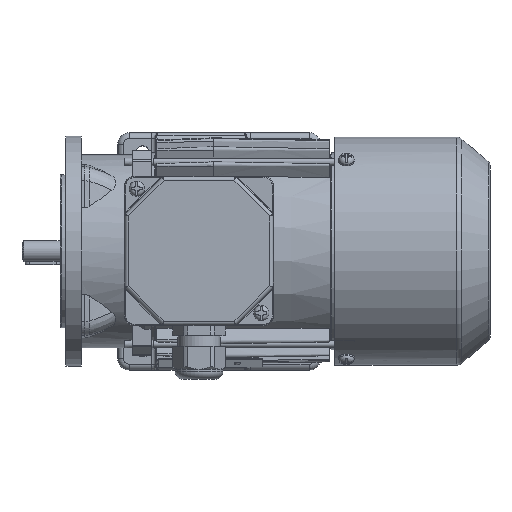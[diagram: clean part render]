
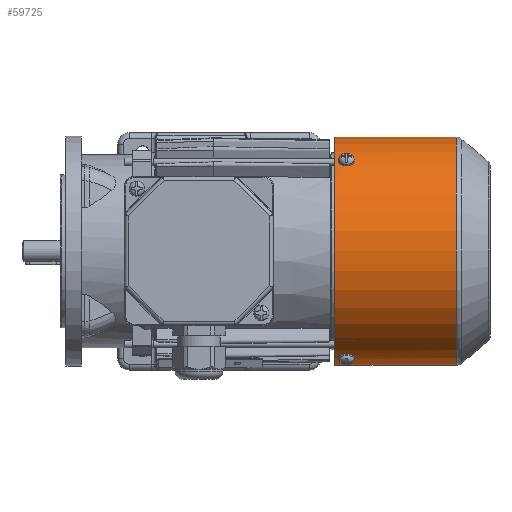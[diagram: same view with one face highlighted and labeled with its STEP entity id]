
A CAD part, top view. The second image highlights one B-rep face of the part: STEP entity #59725.
In plain terms, the highlighted cylindrical face has radius 59.6 mm (diameter 119.2 mm), a full revolution.
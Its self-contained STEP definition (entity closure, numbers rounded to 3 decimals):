
#1383=CYLINDRICAL_SURFACE('',#63434,59.6);
#1983=B_SPLINE_CURVE_WITH_KNOTS('',3,(#90381,#90382,#90383,#90384,#90385,
#90386,#90387),.UNSPECIFIED.,.F.,.F.,(4,1,1,1,4),(0.,
0.002,0.004,0.006,0.007),
 .UNSPECIFIED.);
#1984=B_SPLINE_CURVE_WITH_KNOTS('',3,(#90389,#90390,#90391,#90392,#90393,
#90394,#90395),.UNSPECIFIED.,.F.,.F.,(4,1,1,1,4),(0.,
0.002,0.004,0.006,0.007),
 .UNSPECIFIED.);
#1985=B_SPLINE_CURVE_WITH_KNOTS('',3,(#90401,#90402,#90403,#90404,#90405,
#90406,#90407),.UNSPECIFIED.,.F.,.F.,(4,1,1,1,4),(0.,0.002,
0.004,0.006,0.008),
 .UNSPECIFIED.);
#1986=B_SPLINE_CURVE_WITH_KNOTS('',3,(#90415,#90416,#90417,#90418,#90419,
#90420,#90421),.UNSPECIFIED.,.F.,.F.,(4,1,1,1,4),(0.,
0.002,0.004,0.006,0.008),
 .UNSPECIFIED.);
#1987=B_SPLINE_CURVE_WITH_KNOTS('',3,(#90432,#90433,#90434,#90435,#90436,
#90437,#90438),.UNSPECIFIED.,.F.,.F.,(4,1,1,1,4),(0.,0.002,
0.004,0.006,0.008),
 .UNSPECIFIED.);
#1988=B_SPLINE_CURVE_WITH_KNOTS('',3,(#90446,#90447,#90448,#90449,#90450,
#90451,#90452),.UNSPECIFIED.,.F.,.F.,(4,1,1,1,4),(0.,0.002,
0.004,0.006,0.008),
 .UNSPECIFIED.);
#3766=CIRCLE('',#63316,59.6);
#3767=CIRCLE('',#63319,59.6);
#3768=CIRCLE('',#63321,59.6);
#3769=CIRCLE('',#63324,59.6);
#3770=CIRCLE('',#63327,59.6);
#3819=CIRCLE('',#63435,59.6);
#13781=ORIENTED_EDGE('',*,*,#21832,.T.);
#13782=ORIENTED_EDGE('',*,*,#21830,.T.);
#13783=ORIENTED_EDGE('',*,*,#21828,.T.);
#13784=ORIENTED_EDGE('',*,*,#21833,.T.);
#13785=ORIENTED_EDGE('',*,*,#21815,.F.);
#13786=ORIENTED_EDGE('',*,*,#21816,.F.);
#13787=ORIENTED_EDGE('',*,*,#21823,.T.);
#13788=ORIENTED_EDGE('',*,*,#21821,.T.);
#13789=ORIENTED_EDGE('',*,*,#21819,.T.);
#13790=ORIENTED_EDGE('',*,*,#21824,.T.);
#13791=ORIENTED_EDGE('',*,*,#21969,.F.);
#13792=ORIENTED_EDGE('',*,*,#21825,.T.);
#21815=EDGE_CURVE('',#26610,#26609,#1983,.T.);
#21816=EDGE_CURVE('',#26609,#26610,#1984,.T.);
#21819=EDGE_CURVE('',#26650,#26651,#1985,.T.);
#21821=EDGE_CURVE('',#26652,#26650,#3766,.F.);
#21823=EDGE_CURVE('',#26653,#26652,#1986,.T.);
#21824=EDGE_CURVE('',#26651,#26653,#3767,.F.);
#21825=EDGE_CURVE('',#26654,#26654,#3768,.F.);
#21828=EDGE_CURVE('',#26655,#26656,#1987,.T.);
#21830=EDGE_CURVE('',#26657,#26655,#3769,.F.);
#21832=EDGE_CURVE('',#26658,#26657,#1988,.T.);
#21833=EDGE_CURVE('',#26656,#26658,#3770,.F.);
#21969=EDGE_CURVE('',#26769,#26769,#3819,.T.);
#26609=VERTEX_POINT('',#90236);
#26610=VERTEX_POINT('',#90237);
#26650=VERTEX_POINT('',#90398);
#26651=VERTEX_POINT('',#90400);
#26652=VERTEX_POINT('',#90410);
#26653=VERTEX_POINT('',#90414);
#26654=VERTEX_POINT('',#90426);
#26655=VERTEX_POINT('',#90429);
#26656=VERTEX_POINT('',#90431);
#26657=VERTEX_POINT('',#90441);
#26658=VERTEX_POINT('',#90445);
#26769=VERTEX_POINT('',#90836);
#36496=EDGE_LOOP('',(#13781,#13782,#13783,#13784));
#36497=EDGE_LOOP('',(#13785,#13786));
#36498=EDGE_LOOP('',(#13787,#13788,#13789,#13790));
#36499=EDGE_LOOP('',(#13791));
#36500=EDGE_LOOP('',(#13792));
#39293=FACE_BOUND('',#36496,.T.);
#39294=FACE_BOUND('',#36497,.T.);
#39295=FACE_BOUND('',#36498,.T.);
#39296=FACE_BOUND('',#36499,.T.);
#39297=FACE_BOUND('',#36500,.T.);
#59725=ADVANCED_FACE('',(#39293,#39294,#39295,#39296,#39297),#1383,.T.);
#63316=AXIS2_PLACEMENT_3D('',#90411,#73313,#73314);
#63319=AXIS2_PLACEMENT_3D('',#90423,#73320,#73321);
#63321=AXIS2_PLACEMENT_3D('',#90425,#73324,#73325);
#63324=AXIS2_PLACEMENT_3D('',#90442,#73333,#73334);
#63327=AXIS2_PLACEMENT_3D('',#90454,#73340,#73341);
#63434=AXIS2_PLACEMENT_3D('',#90834,#73617,#73618);
#63435=AXIS2_PLACEMENT_3D('',#90835,#73619,#73620);
#73313=DIRECTION('',(-1.,0.,0.));
#73314=DIRECTION('',(0.,0.866,-0.5));
#73320=DIRECTION('',(1.,0.,0.));
#73321=DIRECTION('',(0.,-0.866,0.5));
#73324=DIRECTION('',(1.,0.,0.));
#73325=DIRECTION('',(0.,0.,-1.));
#73333=DIRECTION('',(-1.,0.,0.));
#73334=DIRECTION('',(0.,0.,1.));
#73340=DIRECTION('',(1.,0.,0.));
#73341=DIRECTION('',(0.,0.,-1.));
#73617=DIRECTION('',(-1.,0.,0.));
#73618=DIRECTION('',(0.,0.,1.));
#73619=DIRECTION('',(-1.,0.,0.));
#73620=DIRECTION('',(0.,0.,1.));
#90236=CARTESIAN_POINT('',(67.,8.295,-59.02));
#90237=CARTESIAN_POINT('',(72.,8.295,-59.02));
#90381=CARTESIAN_POINT('',(72.,8.295,-59.02));
#90382=CARTESIAN_POINT('',(71.937,7.681,-59.106));
#90383=CARTESIAN_POINT('',(71.356,6.499,-59.249));
#90384=CARTESIAN_POINT('',(69.502,5.777,-59.318));
#90385=CARTESIAN_POINT('',(67.649,6.493,-59.25));
#90386=CARTESIAN_POINT('',(67.063,7.681,-59.106));
#90387=CARTESIAN_POINT('',(67.,8.295,-59.02));
#90389=CARTESIAN_POINT('',(67.,8.295,-59.02));
#90390=CARTESIAN_POINT('',(67.063,8.908,-58.934));
#90391=CARTESIAN_POINT('',(67.644,10.084,-58.746));
#90392=CARTESIAN_POINT('',(69.498,10.797,-58.613));
#90393=CARTESIAN_POINT('',(71.351,10.09,-58.745));
#90394=CARTESIAN_POINT('',(71.937,8.908,-58.934));
#90395=CARTESIAN_POINT('',(72.,8.295,-59.02));
#90398=CARTESIAN_POINT('',(72.,46.437,37.36));
#90400=CARTESIAN_POINT('',(67.,46.437,37.36));
#90401=CARTESIAN_POINT('',(72.,46.437,37.36));
#90402=CARTESIAN_POINT('',(72.,46.023,37.874));
#90403=CARTESIAN_POINT('',(71.458,45.191,38.867));
#90404=CARTESIAN_POINT('',(69.502,44.648,39.479));
#90405=CARTESIAN_POINT('',(67.542,45.19,38.869));
#90406=CARTESIAN_POINT('',(67.,46.023,37.874));
#90407=CARTESIAN_POINT('',(67.,46.437,37.36));
#90410=CARTESIAN_POINT('',(72.,47.484,36.02));
#90411=CARTESIAN_POINT('',(72.,0.,0.));
#90414=CARTESIAN_POINT('',(67.,47.484,36.02));
#90415=CARTESIAN_POINT('',(67.,47.484,36.02));
#90416=CARTESIAN_POINT('',(67.,47.883,35.493));
#90417=CARTESIAN_POINT('',(67.542,48.645,34.446));
#90418=CARTESIAN_POINT('',(69.498,49.108,33.771));
#90419=CARTESIAN_POINT('',(71.458,48.646,34.444));
#90420=CARTESIAN_POINT('',(72.,47.883,35.493));
#90421=CARTESIAN_POINT('',(72.,47.484,36.02));
#90423=CARTESIAN_POINT('',(67.,0.,0.));
#90425=CARTESIAN_POINT('',(126.809,0.,0.));
#90426=CARTESIAN_POINT('',(126.809,0.,-59.6));
#90429=CARTESIAN_POINT('',(72.,-55.573,21.536));
#90431=CARTESIAN_POINT('',(67.,-55.573,21.536));
#90432=CARTESIAN_POINT('',(72.,-55.573,21.536));
#90433=CARTESIAN_POINT('',(72.,-55.812,20.92));
#90434=CARTESIAN_POINT('',(71.458,-56.255,19.703));
#90435=CARTESIAN_POINT('',(69.502,-56.514,18.927));
#90436=CARTESIAN_POINT('',(67.542,-56.256,19.701));
#90437=CARTESIAN_POINT('',(67.,-55.812,20.92));
#90438=CARTESIAN_POINT('',(67.,-55.573,21.536));
#90441=CARTESIAN_POINT('',(72.,-54.936,23.112));
#90442=CARTESIAN_POINT('',(72.,0.,0.));
#90445=CARTESIAN_POINT('',(67.,-54.936,23.112));
#90446=CARTESIAN_POINT('',(67.,-54.936,23.112));
#90447=CARTESIAN_POINT('',(67.,-54.68,23.721));
#90448=CARTESIAN_POINT('',(67.542,-54.154,24.905));
#90449=CARTESIAN_POINT('',(69.498,-53.8,25.643));
#90450=CARTESIAN_POINT('',(71.458,-54.153,24.907));
#90451=CARTESIAN_POINT('',(72.,-54.68,23.721));
#90452=CARTESIAN_POINT('',(72.,-54.936,23.112));
#90454=CARTESIAN_POINT('',(67.,0.,0.));
#90834=CARTESIAN_POINT('',(3.5,0.,0.));
#90835=CARTESIAN_POINT('',(63.5,0.,0.));
#90836=CARTESIAN_POINT('',(63.5,0.,59.6));
